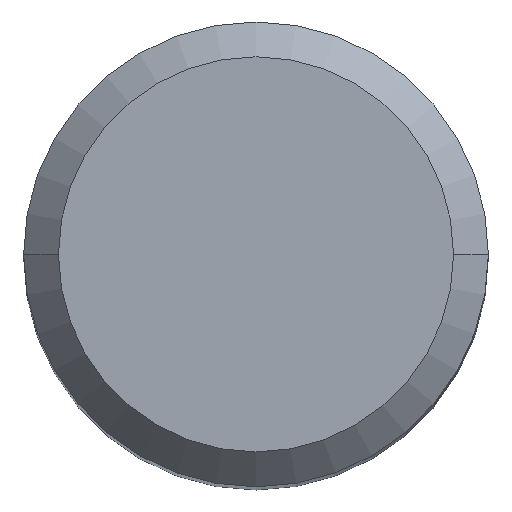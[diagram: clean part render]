
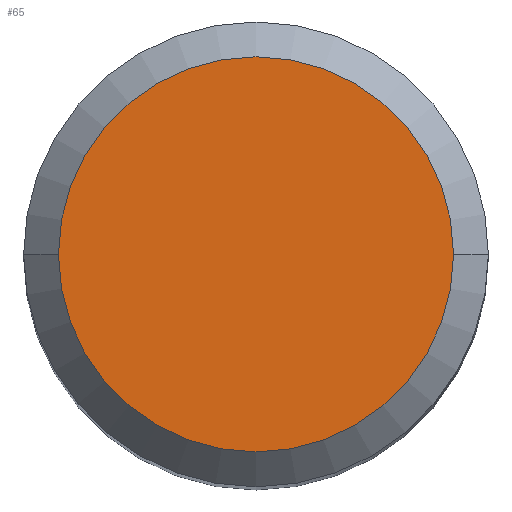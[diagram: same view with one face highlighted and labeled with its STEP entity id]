
A CAD part, top view. The second image highlights one B-rep face of the part: STEP entity #65.
In plain terms, the highlighted planar face has unit normal (0, 0, 1).
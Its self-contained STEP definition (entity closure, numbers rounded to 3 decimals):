
#65=ADVANCED_FACE('',(#125),#126,.T.);
#125=FACE_OUTER_BOUND('',#176,.T.);
#126=PLANE('',#177);
#176=EDGE_LOOP('',(#283,#284));
#177=AXIS2_PLACEMENT_3D('',#285,#286,#287);
#283=ORIENTED_EDGE('',*,*,#319,.T.);
#284=ORIENTED_EDGE('',*,*,#309,.T.);
#285=CARTESIAN_POINT('',(0.0,0.0,0.0));
#286=DIRECTION('',(0.0,0.0,1.0));
#287=DIRECTION('',(1.0,0.0,0.0));
#309=EDGE_CURVE('',#364,#362,#365,.T.);
#319=EDGE_CURVE('',#362,#364,#375,.T.);
#362=VERTEX_POINT('',#426);
#364=VERTEX_POINT('',#429);
#365=CIRCLE('',#430,4.25);
#375=CIRCLE('',#443,4.25);
#426=CARTESIAN_POINT('',(-4.25,0.0,0.0));
#429=CARTESIAN_POINT('',(4.25,0.,0.0));
#430=AXIS2_PLACEMENT_3D('',#481,#482,#483);
#443=AXIS2_PLACEMENT_3D('',#496,#497,#498);
#481=CARTESIAN_POINT('',(0.0,0.0,0.0));
#482=DIRECTION('',(0.0,0.0,1.0));
#483=DIRECTION('',(-1.0,0.0,0.0));
#496=CARTESIAN_POINT('',(0.0,0.0,0.0));
#497=DIRECTION('',(0.0,0.0,1.0));
#498=DIRECTION('',(-1.0,0.0,0.0));
